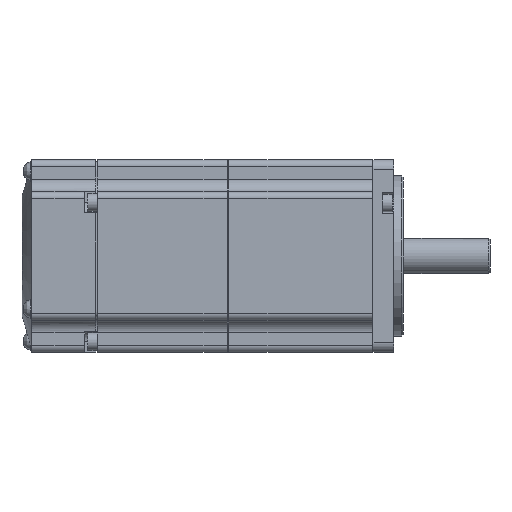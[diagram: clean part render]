
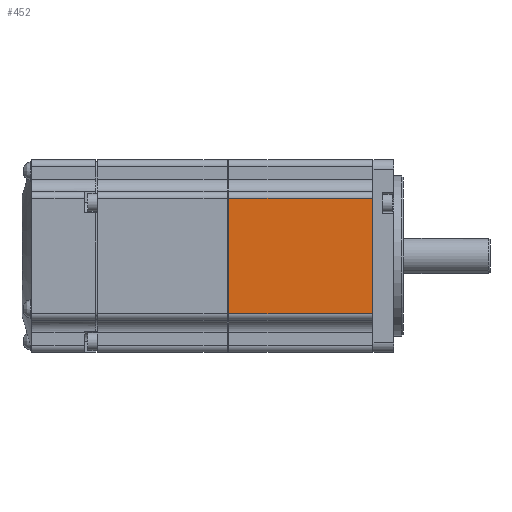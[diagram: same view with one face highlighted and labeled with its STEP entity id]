
A CAD part, front view. The second image highlights one B-rep face of the part: STEP entity #452.
In plain terms, the highlighted planar face has unit normal (0, -1, 0).
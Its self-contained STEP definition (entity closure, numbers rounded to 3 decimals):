
#452 = ADVANCED_FACE( '', ( #1332 ), #1333, .F. );
#1332 = FACE_OUTER_BOUND( '', #3125, .T. );
#1333 = PLANE( '', #3126 );
#3125 = EDGE_LOOP( '', ( #5586, #5587, #5588, #5589 ) );
#3126 = AXIS2_PLACEMENT_3D( '', #5590, #5591, #5592 );
#5586 = ORIENTED_EDGE( '', *, *, #11584, .F. );
#5587 = ORIENTED_EDGE( '', *, *, #11591, .T. );
#5588 = ORIENTED_EDGE( '', *, *, #11578, .T. );
#5589 = ORIENTED_EDGE( '', *, *, #11592, .F. );
#5590 = CARTESIAN_POINT( '', ( 6.5, -30., 27. ) );
#5591 = DIRECTION( '', ( 0., 1., 0. ) );
#5592 = DIRECTION( '', ( 0., 0., 1. ) );
#11578 = EDGE_CURVE( '', #13717, #13719, #13721, .T. );
#11584 = EDGE_CURVE( '', #13728, #13731, #13732, .T. );
#11591 = EDGE_CURVE( '', #13728, #13717, #13742, .T. );
#11592 = EDGE_CURVE( '', #13731, #13719, #13743, .T. );
#13717 = VERTEX_POINT( '', #17240 );
#13719 = VERTEX_POINT( '', #17242 );
#13721 = LINE( '', #17244, #17245 );
#13728 = VERTEX_POINT( '', #17256 );
#13731 = VERTEX_POINT( '', #17259 );
#13732 = LINE( '', #17260, #17261 );
#13742 = LINE( '', #17274, #17275 );
#13743 = LINE( '', #17276, #17277 );
#17240 = CARTESIAN_POINT( '', ( -45., -30., -18. ) );
#17242 = CARTESIAN_POINT( '', ( -0.1, -30., -18. ) );
#17244 = CARTESIAN_POINT( '', ( -86., -30., -18. ) );
#17245 = VECTOR( '', #21942, 1000. );
#17256 = CARTESIAN_POINT( '', ( -45., -30., 18. ) );
#17259 = CARTESIAN_POINT( '', ( -0.1, -30., 18. ) );
#17260 = CARTESIAN_POINT( '', ( -86., -30., 18. ) );
#17261 = VECTOR( '', #21950, 1000. );
#17274 = CARTESIAN_POINT( '', ( -45., -30., 27. ) );
#17275 = VECTOR( '', #21963, 1000. );
#17276 = CARTESIAN_POINT( '', ( -0.1, -30., 27. ) );
#17277 = VECTOR( '', #21964, 1000. );
#21942 = DIRECTION( '', ( 1., 0., 0. ) );
#21950 = DIRECTION( '', ( 1., 0., 0. ) );
#21963 = DIRECTION( '', ( 0., 0., -1. ) );
#21964 = DIRECTION( '', ( 0., 0., -1. ) );
